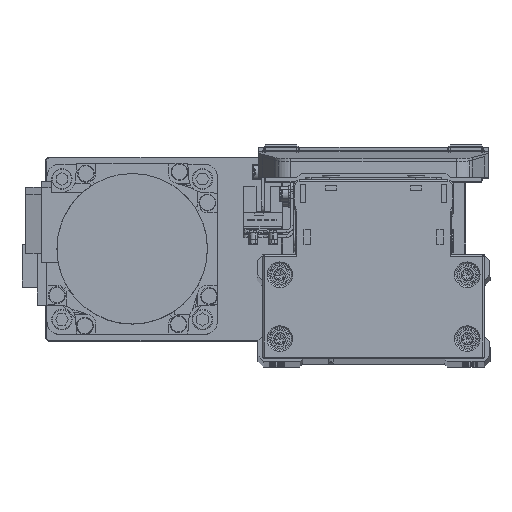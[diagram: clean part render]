
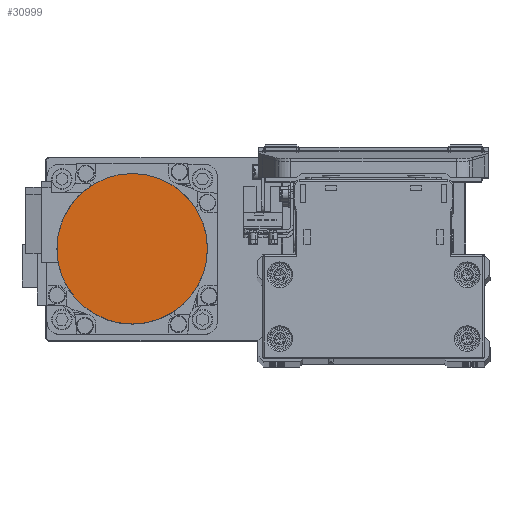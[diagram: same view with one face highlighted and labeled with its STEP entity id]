
A CAD part, top view. The second image highlights one B-rep face of the part: STEP entity #30999.
In plain terms, the highlighted planar face has unit normal (0, 0, 1) as drawn and (0, 0, -1) by its records, which use the part's own axes.
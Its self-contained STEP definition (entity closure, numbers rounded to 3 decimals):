
#2715 = DIRECTION ( 'NONE',  ( 1., 0., 0. ) ) ;
#2951 = AXIS2_PLACEMENT_3D ( 'NONE', #18683, #31542, #2715 ) ;
#4213 = DIRECTION ( 'NONE',  ( 0., 0., 1. ) ) ;
#5637 = AXIS2_PLACEMENT_3D ( 'NONE', #41099, #12243, #25073 ) ;
#7349 = FACE_OUTER_BOUND ( 'NONE', #9880, .T. ) ;
#9880 = EDGE_LOOP ( 'NONE', ( #33238, #38536 ) ) ;
#12243 = DIRECTION ( 'NONE',  ( 0., 0., 1. ) ) ;
#16334 = VERTEX_POINT ( 'NONE', #39017 ) ;
#16444 = AXIS2_PLACEMENT_3D ( 'NONE', #33036, #4213, #17014 ) ;
#17014 = DIRECTION ( 'NONE',  ( 1., 0., 0. ) ) ;
#18683 = CARTESIAN_POINT ( 'NONE',  ( 0., 0., -109.7 ) ) ;
#20174 = PLANE ( 'NONE',  #16444 ) ;
#20514 = EDGE_CURVE ( 'NONE', #24924, #16334, #23758, .T. ) ;
#21059 = CIRCLE ( 'NONE', #2951, 26.5 ) ;
#23758 = CIRCLE ( 'NONE', #5637, 26.5 ) ;
#23789 = EDGE_CURVE ( 'NONE', #16334, #24924, #21059, .T. ) ;
#24924 = VERTEX_POINT ( 'NONE', #26344 ) ;
#25073 = DIRECTION ( 'NONE',  ( -1., 0., 0. ) ) ;
#26344 = CARTESIAN_POINT ( 'NONE',  ( -26.5, 0., -109.7 ) ) ;
#30999 = ADVANCED_FACE ( 'NONE', ( #7349 ), #20174, .F. ) ;
#31542 = DIRECTION ( 'NONE',  ( 0., 0., 1. ) ) ;
#33036 = CARTESIAN_POINT ( 'NONE',  ( 0., 0., -109.7 ) ) ;
#33238 = ORIENTED_EDGE ( 'NONE', *, *, #20514, .F. ) ;
#38536 = ORIENTED_EDGE ( 'NONE', *, *, #23789, .F. ) ;
#39017 = CARTESIAN_POINT ( 'NONE',  ( 26.5, 0., -109.7 ) ) ;
#41099 = CARTESIAN_POINT ( 'NONE',  ( 0., 0., -109.7 ) ) ;
